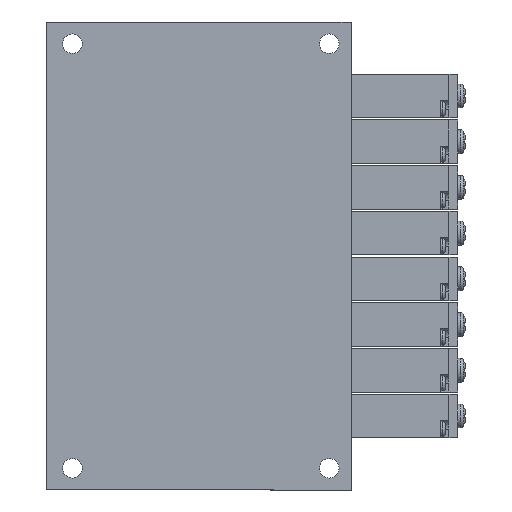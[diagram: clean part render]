
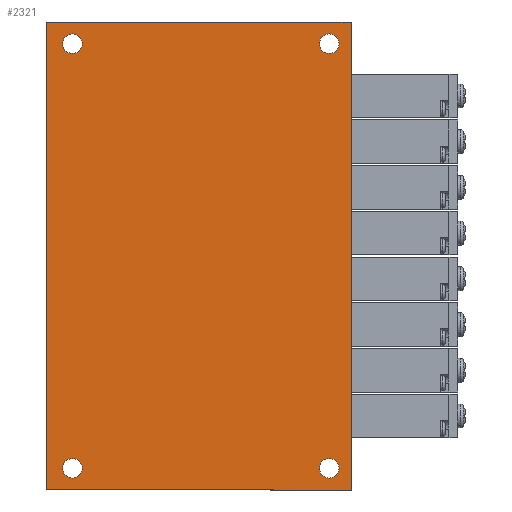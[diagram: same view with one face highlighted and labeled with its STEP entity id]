
A CAD part, front view. The second image highlights one B-rep face of the part: STEP entity #2321.
In plain terms, the highlighted planar face has unit normal (0, -1, 0) as drawn and (0, 0, 1) by its records, which use the part's own axes.
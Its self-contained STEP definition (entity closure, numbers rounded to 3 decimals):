
#2321=ADVANCED_FACE('',(#5190,#5191,#5192,#5193,#5194),#5195,.T.);
#5190=FACE_BOUND('',#8545,.T.);
#5191=FACE_BOUND('',#8546,.T.);
#5192=FACE_BOUND('',#8547,.T.);
#5193=FACE_BOUND('',#8548,.T.);
#5194=FACE_OUTER_BOUND('',#8549,.T.);
#5195=PLANE('',#8550);
#8545=EDGE_LOOP('',(#18129));
#8546=EDGE_LOOP('',(#18130));
#8547=EDGE_LOOP('',(#18131));
#8548=EDGE_LOOP('',(#18132));
#8549=EDGE_LOOP('',(#18133,#18134,#18135,#18136));
#8550=AXIS2_PLACEMENT_3D('',#18137,#18138,#18139);
#18129=ORIENTED_EDGE('',*,*,#23978,.F.);
#18130=ORIENTED_EDGE('',*,*,#23987,.T.);
#18131=ORIENTED_EDGE('',*,*,#23970,.F.);
#18132=ORIENTED_EDGE('',*,*,#23994,.T.);
#18133=ORIENTED_EDGE('',*,*,#23968,.T.);
#18134=ORIENTED_EDGE('',*,*,#23996,.T.);
#18135=ORIENTED_EDGE('',*,*,#23976,.T.);
#18136=ORIENTED_EDGE('',*,*,#23992,.T.);
#18137=CARTESIAN_POINT('',(-53.75,-35.0,25.889));
#18138=DIRECTION('',(0.0,0.0,1.0));
#18139=DIRECTION('',(1.0,0.0,0.0));
#23968=EDGE_CURVE('',#29518,#29516,#29519,.T.);
#23970=EDGE_CURVE('',#29521,#29521,#29522,.T.);
#23976=EDGE_CURVE('',#29534,#29532,#29535,.T.);
#23978=EDGE_CURVE('',#29537,#29537,#29538,.T.);
#23987=EDGE_CURVE('',#29555,#29555,#29556,.T.);
#23992=EDGE_CURVE('',#29532,#29518,#29563,.T.);
#23994=EDGE_CURVE('',#29566,#29566,#29567,.T.);
#23996=EDGE_CURVE('',#29516,#29534,#29570,.T.);
#29516=VERTEX_POINT('',#38736);
#29518=VERTEX_POINT('',#38739);
#29519=LINE('',#38740,#38741);
#29521=VERTEX_POINT('',#38744);
#29522=CIRCLE('',#38745,2.25);
#29532=VERTEX_POINT('',#38756);
#29534=VERTEX_POINT('',#38759);
#29535=LINE('',#38760,#38761);
#29537=VERTEX_POINT('',#38764);
#29538=CIRCLE('',#38765,2.25);
#29555=VERTEX_POINT('',#38782);
#29556=CIRCLE('',#38783,2.25);
#29563=LINE('',#38792,#38793);
#29566=VERTEX_POINT('',#38796);
#29567=CIRCLE('',#38797,2.25);
#29570=LINE('',#38800,#38801);
#38736=CARTESIAN_POINT('',(-53.75,-35.0,25.889));
#38739=CARTESIAN_POINT('',(-53.75,35.0,25.889));
#38740=CARTESIAN_POINT('',(-53.75,35.0,25.889));
#38741=VECTOR('',#45213,1.0);
#38744=CARTESIAN_POINT('',(51.0,-29.0,25.889));
#38745=AXIS2_PLACEMENT_3D('',#45215,#45216,#45217);
#38756=CARTESIAN_POINT('',(53.75,35.0,25.889));
#38759=CARTESIAN_POINT('',(53.75,-35.0,25.889));
#38760=CARTESIAN_POINT('',(53.75,-35.0,25.889));
#38761=VECTOR('',#45229,1.0);
#38764=CARTESIAN_POINT('',(51.0,30.0,25.889));
#38765=AXIS2_PLACEMENT_3D('',#45231,#45232,#45233);
#38782=CARTESIAN_POINT('',(-51.0,30.0,25.889));
#38783=AXIS2_PLACEMENT_3D('',#45258,#45259,#45260);
#38792=CARTESIAN_POINT('',(53.75,35.0,25.889));
#38793=VECTOR('',#45269,1.0);
#38796=CARTESIAN_POINT('',(-51.0,-29.0,25.889));
#38797=AXIS2_PLACEMENT_3D('',#45273,#45274,#45275);
#38800=CARTESIAN_POINT('',(-53.75,-35.0,25.889));
#38801=VECTOR('',#45279,1.0);
#45213=DIRECTION('',(0.0,-1.0,0.0));
#45215=CARTESIAN_POINT('',(48.75,-29.0,25.889));
#45216=DIRECTION('',(0.0,0.0,1.0));
#45217=DIRECTION('',(1.0,0.0,0.0));
#45229=DIRECTION('',(0.0,1.0,0.0));
#45231=CARTESIAN_POINT('',(48.75,30.0,25.889));
#45232=DIRECTION('',(0.0,0.0,1.0));
#45233=DIRECTION('',(1.0,0.0,0.0));
#45258=CARTESIAN_POINT('',(-48.75,30.0,25.889));
#45259=DIRECTION('',(0.0,0.0,-1.0));
#45260=DIRECTION('',(-1.0,0.0,0.0));
#45269=DIRECTION('',(-1.0,0.0,0.0));
#45273=CARTESIAN_POINT('',(-48.75,-29.0,25.889));
#45274=DIRECTION('',(0.0,0.0,-1.0));
#45275=DIRECTION('',(-1.0,0.0,0.0));
#45279=DIRECTION('',(1.0,0.0,0.0));
